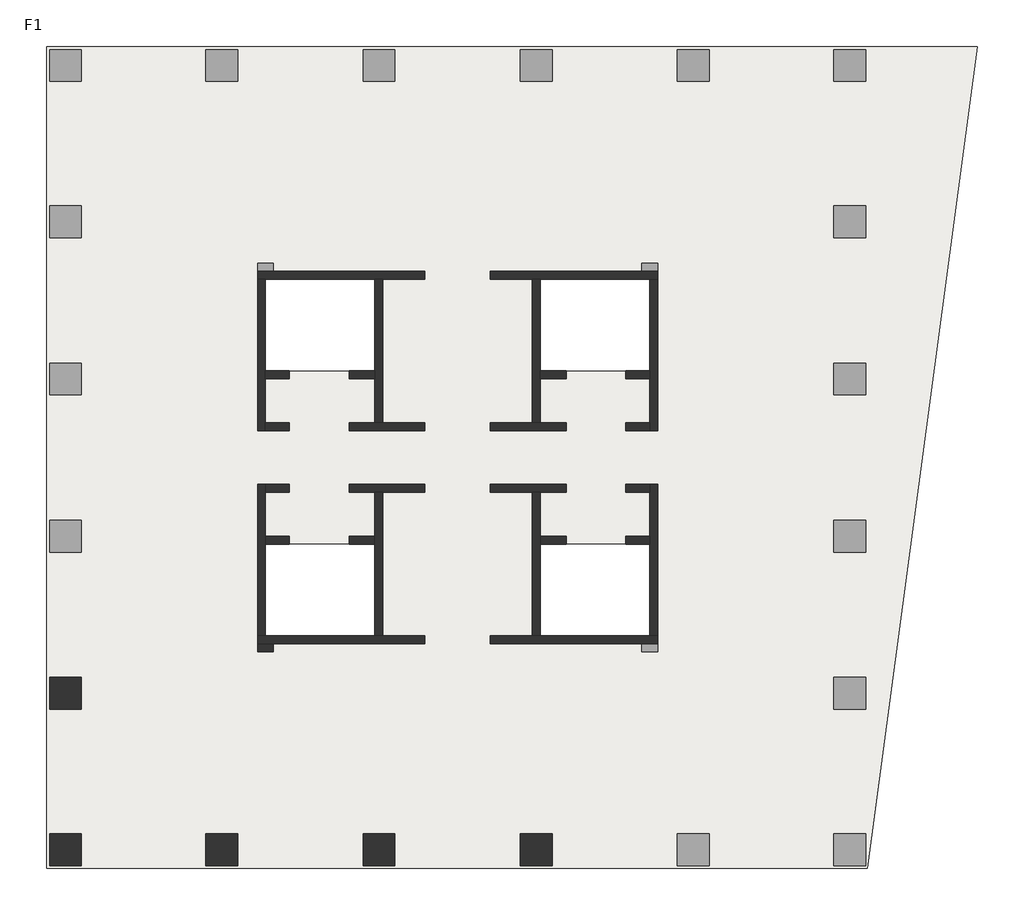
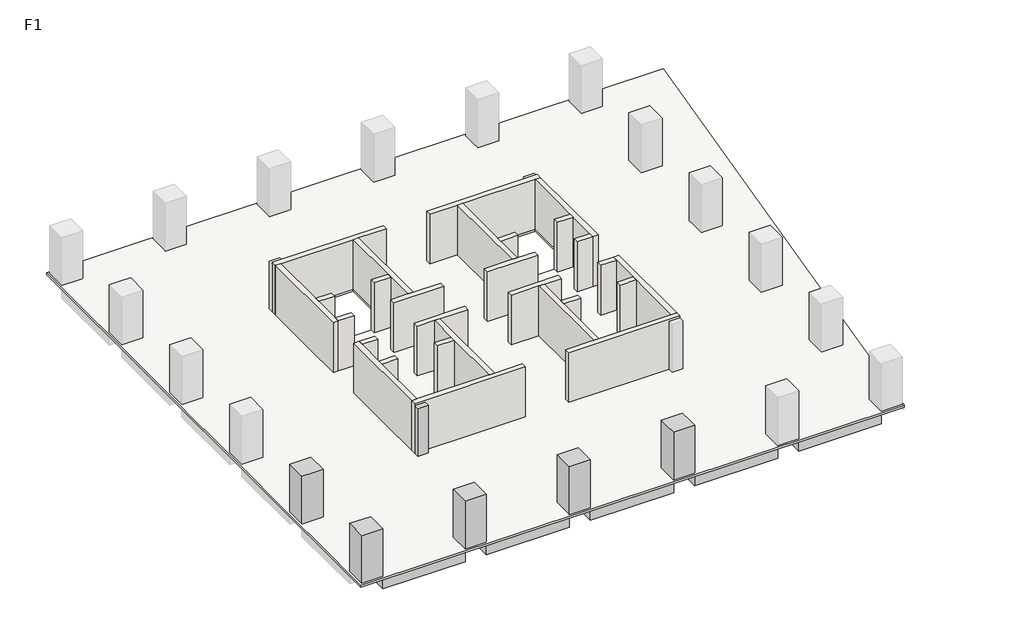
# One storey, part 1 of 2: 28 walls, 6 columns, 5 beams, 1 slab.
"""IFC4 building model written with IfcOpenShell, lengths in millimetres."""

from ifc_helpers import new_model, si_unit, frame, origin, place, context, project, spatial, polyline, outline, extrude, faceted_brep, element, save

model = new_model("IFC4")

# Units and contexts
model_context = context("Model", 3, world=origin())
ifc_project = project(units=[si_unit("LENGTHUNIT", "METRE", prefix="MILLI")], contexts=[model_context])

# Site, building, storey
site = spatial("IfcSite", under=ifc_project)
building = spatial("IfcBuilding", under=site)
storey = spatial("IfcBuildingStorey", under=building, Name="F1", Elevation=4000.0)

# Beams
placement = place(None, origin())
element("IfcBeam", 1, ObjectType="混凝土 - 矩形梁 : KL(5)-800x1000", at=placement, inside=storey, context=model_context, shape_type="SweptSolid", body=[
    extrude(outline(polyline([(-12472.6742169, -13948.9501342), (-12472.6742169, -13148.9501342), (-6222.6742169, -13148.9501342), (-6222.6742169, -13948.9501342), (-12472.6742169, -13948.9501342)])), frame((0.0, 0.0, 3000.0), z_axis=(0.0, 0.0, 1.0), x_axis=(1.0, 0.0, 0.0)), (0.0, 0.0, 1.0), 840.0),
    extrude(outline(polyline([(25327.3257831, -13148.9501342), (25327.3257831, -13948.9501342), (19077.3257831, -13948.9501342), (19077.3257831, -13148.9501342), (25327.3257831, -13148.9501342)])), frame((0.0, 0.0, 3000.0), z_axis=(0.0, 0.0, 1.0), x_axis=(1.0, 0.0, 0.0)), (0.0, 0.0, 1.0), 840.0),
    extrude(outline(polyline([(-4622.6742169, -13948.9501342), (-4622.6742169, -13148.9501342), (1677.3257831, -13148.9501342), (1677.3257831, -13948.9501342), (-4622.6742169, -13948.9501342)])), frame((0.0, 0.0, 3000.0), z_axis=(0.0, 0.0, 1.0), x_axis=(1.0, 0.0, 0.0)), (0.0, 0.0, 1.0), 840.0),
    extrude(outline(polyline([(3277.3257831, -13948.9501342), (3277.3257831, -13148.9501342), (9577.3257831, -13148.9501342), (9577.3257831, -13948.9501342), (3277.3257831, -13948.9501342)])), frame((0.0, 0.0, 3000.0), z_axis=(0.0, 0.0, 1.0), x_axis=(1.0, 0.0, 0.0)), (0.0, 0.0, 1.0), 840.0),
    extrude(outline(polyline([(11177.3257831, -13948.9501342), (11177.3257831, -13148.9501342), (17477.3257831, -13148.9501342), (17477.3257831, -13948.9501342), (11177.3257831, -13948.9501342)])), frame((0.0, 0.0, 3000.0), z_axis=(0.0, 0.0, 1.0), x_axis=(1.0, 0.0, 0.0)), (0.0, 0.0, 1.0), 840.0),
])
element("IfcBeam", 2, ObjectType="混凝土 - 矩形梁 : L1-800x500", at=placement, inside=storey, context=model_context, shape_type="Brep", body=[
    faceted_brep([(-12472.6742169, -5512.1353397, 3500.0), (-3746.9473979, -3341.556529, 3500.0), (-3173.6696907, -3198.9501342, 3500.0), (-3173.6696907, -3198.9501342, 3840.0), (-3746.9473979, -3341.556529, 3840.0), (-12472.6742169, -5512.1353397, 3840.0), (-3622.6742169, -3198.9501342, 3500.0), (-12472.6742169, -4687.7549784, 3500.0), (-3622.6742169, -2486.2624411, 3500.0), (-3622.6742169, -2798.9501342, 3500.0), (-12472.6742169, -4687.7549784, 3840.0), (-3622.6742169, -2486.2624411, 3840.0), (-3622.6742169, -3198.9501342, 3840.0)], [[[0, 1, 2, 3, 4, 5]], [[6, 2, 1, 0, 7, 8, 9]], [[8, 7, 10, 11]], [[2, 6, 12, 3]], [[9, 8, 11, 12, 6]], [[7, 0, 5, 10]], [[5, 4, 3, 12, 11, 10]]]),
])
element("IfcBeam", 3, ObjectType="混凝土 - 矩形梁 : L1-800x500", at=placement, inside=storey, context=model_context, shape_type="SweptSolid", body=[
    extrude(outline(polyline([(-3746.9473979, -3341.556529), (-3173.6696907, -3198.9501342), (-2898.7618154, -3198.9501342), (-4843.6893517, -12348.9501342), (-5661.5624638, -12348.9501342), (-3746.9473979, -3341.556529)])), frame((0.0, 0.0, 3500.0), z_axis=(0.0, 0.0, 1.0), x_axis=(1.0, 0.0, 0.0)), (0.0, 0.0, 1.0), 340.0),
])
element("IfcBeam", 4, ObjectType="混凝土 - 矩形梁 : L1-800x500", at=placement, inside=storey, context=model_context, shape_type="SweptSolid", body=[
    extrude(outline(polyline([(2877.3257831, -12348.9501342), (2077.3257831, -12348.9501342), (2077.3257831, -2798.9501342), (2877.3257831, -2798.9501342), (2877.3257831, -12348.9501342)])), frame((0.0, 0.0, 3500.0), z_axis=(0.0, 0.0, 1.0), x_axis=(1.0, 0.0, 0.0)), (0.0, 0.0, 1.0), 340.0),
])
element("IfcBeam", 5, ObjectType="混凝土 - 矩形梁 : L1-800x500", at=placement, inside=storey, context=model_context, shape_type="SweptSolid", body=[
    extrude(outline(polyline([(10777.3257831, -12348.9501342), (9977.3257831, -12348.9501342), (9977.3257831, -2798.9501342), (10777.3257831, -2798.9501342), (10777.3257831, -12348.9501342)])), frame((0.0, 0.0, 3500.0), z_axis=(0.0, 0.0, 1.0), x_axis=(1.0, 0.0, 0.0)), (0.0, 0.0, 1.0), 340.0),
])

# Columns
element("IfcColumn", 6, ObjectType="混凝土 - 矩形 - 柱 : Z1-1600x1600", at=placement, inside=storey, context=model_context, shape_type="Brep", body=[
    faceted_brep([(-12472.6742169, -4498.9501342, 4000.0), (-12472.6742169, -6098.9501342, 4000.0), (-14072.6742169, -6098.9501342, 4000.0), (-14072.6742169, -4498.9501342, 4000.0), (-12472.6742169, -4498.9501342, 7840.0), (-12472.6742169, -6098.9501342, 7840.0), (-13272.6742169, -6098.9501342, 7840.0), (-14072.6742169, -6098.9501342, 7840.0), (-14072.6742169, -6098.9501342, 7000.0), (-14072.6742169, -4498.9501342, 7840.0), (-14072.6742169, -4498.9501342, 7000.0), (-13272.6742169, -4498.9501342, 7840.0)], [[[0, 1, 2, 3]], [[1, 0, 4, 5]], [[2, 1, 5, 6, 7, 8]], [[3, 2, 8, 7, 9, 10]], [[0, 3, 10, 9, 11, 4]], [[5, 4, 11, 9, 7, 6]]]),
])
element("IfcColumn", 7, ObjectType="混凝土 - 矩形 - 柱 : Z1-1600x1600", at=placement, inside=storey, context=model_context, shape_type="SweptSolid", body=[
    extrude(outline(polyline([(-12472.6742169, -12348.9501342), (-12472.6742169, -13948.9501342), (-14072.6742169, -13948.9501342), (-14072.6742169, -12348.9501342), (-12472.6742169, -12348.9501342)])), frame((0.0, 0.0, 4000.0), z_axis=(0.0, 0.0, 1.0), x_axis=(1.0, 0.0, 0.0)), (0.0, 0.0, 1.0), 3840.0),
])
element("IfcColumn", 8, ObjectType="混凝土 - 矩形 - 柱 : Z1-1600x1600", at=placement, inside=storey, context=model_context, shape_type="Brep", body=[
    faceted_brep([(-4622.6742169, -12348.9501342, 4000.0), (-4622.6742169, -13948.9501342, 4000.0), (-6222.6742169, -13948.9501342, 4000.0), (-6222.6742169, -12348.9501342, 4000.0), (-4622.6742169, -12348.9501342, 7840.0), (-4622.6742169, -13148.9501342, 7840.0), (-4622.6742169, -13948.9501342, 7840.0), (-4622.6742169, -13948.9501342, 7000.0), (-6222.6742169, -13948.9501342, 7840.0), (-6222.6742169, -13948.9501342, 7000.0), (-6222.6742169, -13148.9501342, 7840.0), (-6222.6742169, -12348.9501342, 7840.0)], [[[0, 1, 2, 3]], [[1, 0, 4, 5, 6, 7]], [[2, 1, 7, 6, 8, 9]], [[3, 2, 9, 8, 10, 11]], [[0, 3, 11, 4]], [[6, 5, 4, 11, 10, 8]]]),
])
element("IfcColumn", 9, ObjectType="混凝土 - 矩形 - 柱 : Z1-1600x1600", at=placement, inside=storey, context=model_context, shape_type="Brep", body=[
    faceted_brep([(3277.3257831, -12348.9501342, 4000.0), (3277.3257831, -13948.9501342, 4000.0), (1677.3257831, -13948.9501342, 4000.0), (1677.3257831, -12348.9501342, 4000.0), (3277.3257831, -12348.9501342, 7840.0), (3277.3257831, -13148.9501342, 7840.0), (3277.3257831, -13948.9501342, 7840.0), (3277.3257831, -13948.9501342, 7000.0), (1677.3257831, -13948.9501342, 7840.0), (1677.3257831, -13948.9501342, 7000.0), (1677.3257831, -13148.9501342, 7840.0), (1677.3257831, -12348.9501342, 7840.0)], [[[0, 1, 2, 3]], [[1, 0, 4, 5, 6, 7]], [[2, 1, 7, 6, 8, 9]], [[3, 2, 9, 8, 10, 11]], [[0, 3, 11, 4]], [[6, 5, 4, 11, 10, 8]]]),
])
element("IfcColumn", 10, ObjectType="混凝土 - 矩形 - 柱 : Z1-1600x1600", at=placement, inside=storey, context=model_context, shape_type="Brep", body=[
    faceted_brep([(11177.3257831, -12348.9501342, 4000.0), (11177.3257831, -13948.9501342, 4000.0), (9577.3257831, -13948.9501342, 4000.0), (9577.3257831, -12348.9501342, 4000.0), (11177.3257831, -12348.9501342, 7840.0), (11177.3257831, -13148.9501342, 7840.0), (11177.3257831, -13948.9501342, 7840.0), (11177.3257831, -13948.9501342, 7000.0), (9577.3257831, -13948.9501342, 7840.0), (9577.3257831, -13948.9501342, 7000.0), (9577.3257831, -13148.9501342, 7840.0), (9577.3257831, -12348.9501342, 7840.0)], [[[0, 1, 2, 3]], [[1, 0, 4, 5, 6, 7]], [[2, 1, 7, 6, 8, 9]], [[3, 2, 9, 8, 10, 11]], [[0, 3, 11, 4]], [[6, 5, 4, 11, 10, 8]]]),
])
element("IfcColumn", 11, ObjectType="混凝土 - 矩形 - 柱 : Z2-800x800", at=placement, inside=storey, context=model_context, shape_type="SweptSolid", body=[
    extrude(outline(polyline([(-2822.6742169, -3198.9501342), (-3622.6742169, -3198.9501342), (-3622.6742169, -2798.9501342), (-2822.6742169, -2798.9501342), (-2822.6742169, -3198.9501342)])), frame((0.0, 0.0, 4000.0), z_axis=(0.0, 0.0, 1.0), x_axis=(1.0, 0.0, 0.0)), (0.0, 0.0, 1.0), 3840.0),
])

# Slab
element("IfcSlab", 12, ObjectType="LB-160", at=placement, inside=storey, context=model_context, shape_type="Brep", body=[
    faceted_brep([(32549.4477343, 27201.0498658, 3840.0), (32422.0087099, 26251.0498658, 3840.0), (27029.3257831, -13948.9501342, 3840.0), (27011.0393465, -14085.2672073, 3840.0), (-14222.6742169, -14085.2672073, 3840.0), (-14222.6742169, 27201.0498658, 3840.0), (2277.3257831, 15501.0498658, 3840.0), (-3222.6742169, 15501.0498658, 3840.0), (-3222.6742169, 10901.0498658, 3840.0), (2277.3257831, 10901.0498658, 3840.0), (2277.3257831, 2201.0498658, 3840.0), (-3222.6742169, 2201.0498658, 3840.0), (-3222.6742169, -2398.9501342, 3840.0), (2277.3257831, -2398.9501342, 3840.0), (16077.3257831, 2201.0498658, 3840.0), (10577.3257831, 2201.0498658, 3840.0), (10577.3257831, -2398.9501342, 3840.0), (16077.3257831, -2398.9501342, 3840.0), (16077.3257831, 15501.0498658, 3840.0), (10577.3257831, 15501.0498658, 3840.0), (10577.3257831, 10901.0498658, 3840.0), (16077.3257831, 10901.0498658, 3840.0), (32549.4477343, 27201.0498658, 4000.0), (-14222.6742169, 27201.0498658, 4000.0), (-14222.6742169, -14085.2672073, 4000.0), (27011.0393465, -14085.2672073, 4000.0), (2277.3257831, 15501.0498658, 4000.0), (2277.3257831, 10901.0498658, 4000.0), (-3222.6742169, 10901.0498658, 4000.0), (-3222.6742169, 15501.0498658, 4000.0), (2277.3257831, 2201.0498658, 4000.0), (2277.3257831, -2398.9501342, 4000.0), (-3222.6742169, -2398.9501342, 4000.0), (-3222.6742169, 2201.0498658, 4000.0), (16077.3257831, 2201.0498658, 4000.0), (16077.3257831, -2398.9501342, 4000.0), (10577.3257831, -2398.9501342, 4000.0), (10577.3257831, 2201.0498658, 4000.0), (16077.3257831, 15501.0498658, 4000.0), (16077.3257831, 10901.0498658, 4000.0), (10577.3257831, 10901.0498658, 4000.0), (10577.3257831, 15501.0498658, 4000.0)], [[[0, 1, 2, 3, 4, 5], [6, 7, 8, 9], [10, 11, 12, 13], [14, 15, 16, 17], [18, 19, 20, 21]], [[22, 23, 24, 25], [26, 27, 28, 29], [30, 31, 32, 33], [34, 35, 36, 37], [38, 39, 40, 41]], [[3, 2, 1, 0, 22, 25]], [[4, 3, 25, 24]], [[5, 4, 24, 23]], [[0, 5, 23, 22]], [[7, 6, 26, 29]], [[8, 7, 29, 28]], [[9, 8, 28, 27]], [[6, 9, 27, 26]], [[11, 10, 30, 33]], [[12, 11, 33, 32]], [[13, 12, 32, 31]], [[10, 13, 31, 30]], [[15, 14, 34, 37]], [[16, 15, 37, 36]], [[17, 16, 36, 35]], [[14, 17, 35, 34]], [[19, 18, 38, 41]], [[20, 19, 41, 40]], [[21, 20, 40, 39]], [[18, 21, 39, 38]]]),
])

# Walls
element("IfcWall", 13, ObjectType="剪力墙-400", at=placement, inside=storey, context=model_context, shape_type="Brep", body=[
    faceted_brep([(-3622.6742169, 15501.0498658, 4000.0), (-3222.6742169, 15501.0498658, 4000.0), (2277.3257831, 15501.0498658, 4000.0), (2677.3257831, 15501.0498658, 4000.0), (4777.3257831, 15501.0498658, 4000.0), (4777.3257831, 15501.0498658, 8000.0), (2677.3257831, 15501.0498658, 8000.0), (2277.3257831, 15501.0498658, 8000.0), (-3222.6742169, 15501.0498658, 8000.0), (-3622.6742169, 15501.0498658, 8000.0), (-3622.6742169, 15901.0498658, 4000.0), (-3622.6742169, 15901.0498658, 7840.0), (-3622.6742169, 15901.0498658, 8000.0), (4777.3257831, 15901.0498658, 8000.0), (4777.3257831, 15901.0498658, 4000.0), (-2822.6742169, 15901.0498658, 4000.0)], [[[0, 1, 2, 3, 4, 5, 6, 7, 8, 9]], [[10, 11, 12, 13, 14, 15]], [[4, 3, 2, 1, 0, 10, 15, 14]], [[5, 4, 14, 13]], [[9, 8, 7, 6, 5, 13, 12]], [[0, 9, 12, 11, 10]]]),
])
element("IfcWall", 14, ObjectType="剪力墙-400", at=placement, inside=storey, context=model_context, shape_type="Brep", body=[
    faceted_brep([(2277.3257831, 15501.0498658, 4000.0), (2277.3257831, 10901.0498658, 4000.0), (2277.3257831, 10501.0498658, 4000.0), (2277.3257831, 8301.0498658, 4000.0), (2277.3257831, 8301.0498658, 8000.0), (2277.3257831, 10501.0498658, 8000.0), (2277.3257831, 10901.0498658, 8000.0), (2277.3257831, 15501.0498658, 8000.0), (2677.3257831, 15501.0498658, 4000.0), (2677.3257831, 15501.0498658, 8000.0), (2677.3257831, 8301.0498658, 8000.0), (2677.3257831, 8301.0498658, 4000.0)], [[[0, 1, 2, 3, 4, 5, 6, 7]], [[8, 9, 10, 11]], [[3, 2, 1, 0, 8, 11]], [[7, 6, 5, 4, 10, 9]], [[0, 7, 9, 8]], [[4, 3, 11, 10]]]),
])
element("IfcWall", 15, ObjectType="剪力墙-400", at=placement, inside=storey, context=model_context, shape_type="Brep", body=[
    faceted_brep([(-3622.6742169, 15501.0498658, 4000.0), (-3622.6742169, 7901.0498658, 4000.0), (-3622.6742169, 7901.0498658, 8000.0), (-3622.6742169, 15501.0498658, 8000.0), (-3222.6742169, 15501.0498658, 4000.0), (-3222.6742169, 15501.0498658, 8000.0), (-3222.6742169, 10901.0498658, 8000.0), (-3222.6742169, 10501.0498658, 8000.0), (-3222.6742169, 8301.0498658, 8000.0), (-3222.6742169, 7901.0498658, 8000.0), (-3222.6742169, 7901.0498658, 4000.0), (-3222.6742169, 8301.0498658, 4000.0), (-3222.6742169, 10501.0498658, 4000.0), (-3222.6742169, 10901.0498658, 4000.0)], [[[0, 1, 2, 3]], [[4, 5, 6, 7, 8, 9, 10, 11, 12, 13]], [[1, 0, 4, 13, 12, 11, 10]], [[3, 2, 9, 8, 7, 6, 5]], [[0, 3, 5, 4]], [[2, 1, 10, 9]]]),
])
element("IfcWall", 16, ObjectType="剪力墙-400", at=placement, inside=storey, context=model_context, shape_type="SweptSolid", body=[
    extrude(outline(polyline([(-2022.6742169, 7901.0498658), (-3222.6742169, 7901.0498658), (-3222.6742169, 8301.0498658), (-2022.6742169, 8301.0498658), (-2022.6742169, 7901.0498658)])), frame((0.0, 0.0, 4000.0), z_axis=(0.0, 0.0, 1.0), x_axis=(1.0, 0.0, 0.0)), (0.0, 0.0, 1.0), 4000.0),
])
element("IfcWall", 17, ObjectType="剪力墙-400", at=placement, inside=storey, context=model_context, shape_type="Brep", body=[
    faceted_brep([(977.3257831, 7901.0498658, 4000.0), (4777.3257831, 7901.0498658, 4000.0), (4777.3257831, 7901.0498658, 8000.0), (977.3257831, 7901.0498658, 8000.0), (977.3257831, 8301.0498658, 4000.0), (977.3257831, 8301.0498658, 8000.0), (2277.3257831, 8301.0498658, 8000.0), (2677.3257831, 8301.0498658, 8000.0), (4777.3257831, 8301.0498658, 8000.0), (4777.3257831, 8301.0498658, 4000.0), (2677.3257831, 8301.0498658, 4000.0), (2277.3257831, 8301.0498658, 4000.0)], [[[0, 1, 2, 3]], [[4, 5, 6, 7, 8, 9, 10, 11]], [[1, 0, 4, 11, 10, 9]], [[2, 1, 9, 8]], [[3, 2, 8, 7, 6, 5]], [[0, 3, 5, 4]]]),
])
element("IfcWall", 18, ObjectType="剪力墙-400", at=placement, inside=storey, context=model_context, shape_type="SweptSolid", body=[
    extrude(outline(polyline([(-2022.6742169, 10501.0498658), (-3222.6742169, 10501.0498658), (-3222.6742169, 10901.0498658), (-2022.6742169, 10901.0498658), (-2022.6742169, 10501.0498658)])), frame((0.0, 0.0, 4000.0), z_axis=(0.0, 0.0, 1.0), x_axis=(1.0, 0.0, 0.0)), (0.0, 0.0, 1.0), 4000.0),
])
element("IfcWall", 19, ObjectType="剪力墙-400", at=placement, inside=storey, context=model_context, shape_type="SweptSolid", body=[
    extrude(outline(polyline([(2277.3257831, 10501.0498658), (977.3257831, 10501.0498658), (977.3257831, 10901.0498658), (2277.3257831, 10901.0498658), (2277.3257831, 10501.0498658)])), frame((0.0, 0.0, 4000.0), z_axis=(0.0, 0.0, 1.0), x_axis=(1.0, 0.0, 0.0)), (0.0, 0.0, 1.0), 4000.0),
])
element("IfcWall", 20, ObjectType="剪力墙-400", at=placement, inside=storey, context=model_context, shape_type="Brep", body=[
    faceted_brep([(16477.3257831, 15901.0498658, 4000.0), (15677.3257831, 15901.0498658, 4000.0), (8077.3257831, 15901.0498658, 4000.0), (8077.3257831, 15901.0498658, 8000.0), (16477.3257831, 15901.0498658, 8000.0), (16477.3257831, 15901.0498658, 7840.0), (16477.3257831, 15501.0498658, 4000.0), (16477.3257831, 15501.0498658, 8000.0), (16077.3257831, 15501.0498658, 8000.0), (10577.3257831, 15501.0498658, 8000.0), (10177.3257831, 15501.0498658, 8000.0), (8077.3257831, 15501.0498658, 8000.0), (8077.3257831, 15501.0498658, 4000.0), (10177.3257831, 15501.0498658, 4000.0), (10577.3257831, 15501.0498658, 4000.0), (16077.3257831, 15501.0498658, 4000.0)], [[[0, 1, 2, 3, 4, 5]], [[6, 7, 8, 9, 10, 11, 12, 13, 14, 15]], [[2, 1, 0, 6, 15, 14, 13, 12]], [[3, 2, 12, 11]], [[4, 3, 11, 10, 9, 8, 7]], [[0, 5, 4, 7, 6]]]),
])
element("IfcWall", 21, ObjectType="剪力墙-400", at=placement, inside=storey, context=model_context, shape_type="Brep", body=[
    faceted_brep([(10177.3257831, 15501.0498658, 4000.0), (10177.3257831, 8301.0498658, 4000.0), (10177.3257831, 8301.0498658, 8000.0), (10177.3257831, 15501.0498658, 8000.0), (10577.3257831, 15501.0498658, 4000.0), (10577.3257831, 15501.0498658, 8000.0), (10577.3257831, 10901.0498658, 8000.0), (10577.3257831, 10501.0498658, 8000.0), (10577.3257831, 8301.0498658, 8000.0), (10577.3257831, 8301.0498658, 4000.0), (10577.3257831, 10501.0498658, 4000.0), (10577.3257831, 10901.0498658, 4000.0)], [[[0, 1, 2, 3]], [[4, 5, 6, 7, 8, 9, 10, 11]], [[1, 0, 4, 11, 10, 9]], [[3, 2, 8, 7, 6, 5]], [[0, 3, 5, 4]], [[2, 1, 9, 8]]]),
])
element("IfcWall", 22, ObjectType="剪力墙-400", at=placement, inside=storey, context=model_context, shape_type="Brep", body=[
    faceted_brep([(16077.3257831, 15501.0498658, 4000.0), (16077.3257831, 10901.0498658, 4000.0), (16077.3257831, 10501.0498658, 4000.0), (16077.3257831, 8301.0498658, 4000.0), (16077.3257831, 7901.0498658, 4000.0), (16077.3257831, 7901.0498658, 8000.0), (16077.3257831, 8301.0498658, 8000.0), (16077.3257831, 10501.0498658, 8000.0), (16077.3257831, 10901.0498658, 8000.0), (16077.3257831, 15501.0498658, 8000.0), (16477.3257831, 15501.0498658, 4000.0), (16477.3257831, 15501.0498658, 8000.0), (16477.3257831, 7901.0498658, 8000.0), (16477.3257831, 7901.0498658, 4000.0)], [[[0, 1, 2, 3, 4, 5, 6, 7, 8, 9]], [[10, 11, 12, 13]], [[4, 3, 2, 1, 0, 10, 13]], [[9, 8, 7, 6, 5, 12, 11]], [[0, 9, 11, 10]], [[5, 4, 13, 12]]]),
])
element("IfcWall", 23, ObjectType="剪力墙-400", at=placement, inside=storey, context=model_context, shape_type="SweptSolid", body=[
    extrude(outline(polyline([(14877.3257831, 8301.0498658), (16077.3257831, 8301.0498658), (16077.3257831, 7901.0498658), (14877.3257831, 7901.0498658), (14877.3257831, 8301.0498658)])), frame((0.0, 0.0, 4000.0), z_axis=(0.0, 0.0, 1.0), x_axis=(1.0, 0.0, 0.0)), (0.0, 0.0, 1.0), 4000.0),
])
element("IfcWall", 24, ObjectType="剪力墙-400", at=placement, inside=storey, context=model_context, shape_type="Brep", body=[
    faceted_brep([(11877.3257831, 8301.0498658, 4000.0), (10577.3257831, 8301.0498658, 4000.0), (10177.3257831, 8301.0498658, 4000.0), (8077.3257831, 8301.0498658, 4000.0), (8077.3257831, 8301.0498658, 8000.0), (10177.3257831, 8301.0498658, 8000.0), (10577.3257831, 8301.0498658, 8000.0), (11877.3257831, 8301.0498658, 8000.0), (11877.3257831, 7901.0498658, 4000.0), (11877.3257831, 7901.0498658, 8000.0), (8077.3257831, 7901.0498658, 8000.0), (8077.3257831, 7901.0498658, 4000.0)], [[[0, 1, 2, 3, 4, 5, 6, 7]], [[8, 9, 10, 11]], [[3, 2, 1, 0, 8, 11]], [[4, 3, 11, 10]], [[7, 6, 5, 4, 10, 9]], [[0, 7, 9, 8]]]),
])
element("IfcWall", 25, ObjectType="剪力墙-400", at=placement, inside=storey, context=model_context, shape_type="SweptSolid", body=[
    extrude(outline(polyline([(14877.3257831, 10901.0498658), (16077.3257831, 10901.0498658), (16077.3257831, 10501.0498658), (14877.3257831, 10501.0498658), (14877.3257831, 10901.0498658)])), frame((0.0, 0.0, 4000.0), z_axis=(0.0, 0.0, 1.0), x_axis=(1.0, 0.0, 0.0)), (0.0, 0.0, 1.0), 4000.0),
])
element("IfcWall", 26, ObjectType="剪力墙-400", at=placement, inside=storey, context=model_context, shape_type="SweptSolid", body=[
    extrude(outline(polyline([(10577.3257831, 10901.0498658), (11877.3257831, 10901.0498658), (11877.3257831, 10501.0498658), (10577.3257831, 10501.0498658), (10577.3257831, 10901.0498658)])), frame((0.0, 0.0, 4000.0), z_axis=(0.0, 0.0, 1.0), x_axis=(1.0, 0.0, 0.0)), (0.0, 0.0, 1.0), 4000.0),
])
element("IfcWall", 27, ObjectType="剪力墙-400", at=placement, inside=storey, context=model_context, shape_type="Brep", body=[
    faceted_brep([(-3622.6742169, -2798.9501342, 4000.0), (-2822.6742169, -2798.9501342, 4000.0), (4777.3257831, -2798.9501342, 4000.0), (4777.3257831, -2798.9501342, 8000.0), (-3622.6742169, -2798.9501342, 8000.0), (-3622.6742169, -2798.9501342, 7840.0), (-3622.6742169, -2398.9501342, 4000.0), (-3622.6742169, -2398.9501342, 8000.0), (-3222.6742169, -2398.9501342, 8000.0), (2277.3257831, -2398.9501342, 8000.0), (2677.3257831, -2398.9501342, 8000.0), (4777.3257831, -2398.9501342, 8000.0), (4777.3257831, -2398.9501342, 4000.0), (2677.3257831, -2398.9501342, 4000.0), (2277.3257831, -2398.9501342, 4000.0), (-3222.6742169, -2398.9501342, 4000.0)], [[[0, 1, 2, 3, 4, 5]], [[6, 7, 8, 9, 10, 11, 12, 13, 14, 15]], [[2, 1, 0, 6, 15, 14, 13, 12]], [[3, 2, 12, 11]], [[4, 3, 11, 10, 9, 8, 7]], [[0, 5, 4, 7, 6]]]),
])
element("IfcWall", 28, ObjectType="剪力墙-400", at=placement, inside=storey, context=model_context, shape_type="Brep", body=[
    faceted_brep([(2677.3257831, -2398.9501342, 4000.0), (2677.3257831, 4801.0498658, 4000.0), (2677.3257831, 4801.0498658, 8000.0), (2677.3257831, -2398.9501342, 8000.0), (2277.3257831, -2398.9501342, 4000.0), (2277.3257831, -2398.9501342, 8000.0), (2277.3257831, 2201.0498658, 8000.0), (2277.3257831, 2601.0498658, 8000.0), (2277.3257831, 4801.0498658, 8000.0), (2277.3257831, 4801.0498658, 4000.0), (2277.3257831, 2601.0498658, 4000.0), (2277.3257831, 2201.0498658, 4000.0)], [[[0, 1, 2, 3]], [[4, 5, 6, 7, 8, 9, 10, 11]], [[1, 0, 4, 11, 10, 9]], [[3, 2, 8, 7, 6, 5]], [[0, 3, 5, 4]], [[2, 1, 9, 8]]]),
])
element("IfcWall", 29, ObjectType="剪力墙-400", at=placement, inside=storey, context=model_context, shape_type="Brep", body=[
    faceted_brep([(-3222.6742169, -2398.9501342, 4000.0), (-3222.6742169, 2201.0498658, 4000.0), (-3222.6742169, 2601.0498658, 4000.0), (-3222.6742169, 4801.0498658, 4000.0), (-3222.6742169, 5201.0498658, 4000.0), (-3222.6742169, 5201.0498658, 8000.0), (-3222.6742169, 4801.0498658, 8000.0), (-3222.6742169, 2601.0498658, 8000.0), (-3222.6742169, 2201.0498658, 8000.0), (-3222.6742169, -2398.9501342, 8000.0), (-3622.6742169, -2398.9501342, 4000.0), (-3622.6742169, -2398.9501342, 8000.0), (-3622.6742169, 5201.0498658, 8000.0), (-3622.6742169, 5201.0498658, 4000.0)], [[[0, 1, 2, 3, 4, 5, 6, 7, 8, 9]], [[10, 11, 12, 13]], [[4, 3, 2, 1, 0, 10, 13]], [[9, 8, 7, 6, 5, 12, 11]], [[0, 9, 11, 10]], [[5, 4, 13, 12]]]),
])
element("IfcWall", 30, ObjectType="剪力墙-400", at=placement, inside=storey, context=model_context, shape_type="SweptSolid", body=[
    extrude(outline(polyline([(-2022.6742169, 4801.0498658), (-3222.6742169, 4801.0498658), (-3222.6742169, 5201.0498658), (-2022.6742169, 5201.0498658), (-2022.6742169, 4801.0498658)])), frame((0.0, 0.0, 4000.0), z_axis=(0.0, 0.0, 1.0), x_axis=(1.0, 0.0, 0.0)), (0.0, 0.0, 1.0), 4000.0),
])
element("IfcWall", 31, ObjectType="剪力墙-400", at=placement, inside=storey, context=model_context, shape_type="Brep", body=[
    faceted_brep([(977.3257831, 4801.0498658, 4000.0), (2277.3257831, 4801.0498658, 4000.0), (2677.3257831, 4801.0498658, 4000.0), (4777.3257831, 4801.0498658, 4000.0), (4777.3257831, 4801.0498658, 8000.0), (2677.3257831, 4801.0498658, 8000.0), (2277.3257831, 4801.0498658, 8000.0), (977.3257831, 4801.0498658, 8000.0), (977.3257831, 5201.0498658, 4000.0), (977.3257831, 5201.0498658, 8000.0), (4777.3257831, 5201.0498658, 8000.0), (4777.3257831, 5201.0498658, 4000.0)], [[[0, 1, 2, 3, 4, 5, 6, 7]], [[8, 9, 10, 11]], [[3, 2, 1, 0, 8, 11]], [[4, 3, 11, 10]], [[7, 6, 5, 4, 10, 9]], [[0, 7, 9, 8]]]),
])
element("IfcWall", 32, ObjectType="剪力墙-400", at=placement, inside=storey, context=model_context, shape_type="SweptSolid", body=[
    extrude(outline(polyline([(-2022.6742169, 2201.0498658), (-3222.6742169, 2201.0498658), (-3222.6742169, 2601.0498658), (-2022.6742169, 2601.0498658), (-2022.6742169, 2201.0498658)])), frame((0.0, 0.0, 4000.0), z_axis=(0.0, 0.0, 1.0), x_axis=(1.0, 0.0, 0.0)), (0.0, 0.0, 1.0), 4000.0),
])
element("IfcWall", 33, ObjectType="剪力墙-400", at=placement, inside=storey, context=model_context, shape_type="SweptSolid", body=[
    extrude(outline(polyline([(2277.3257831, 2201.0498658), (977.3257831, 2201.0498658), (977.3257831, 2601.0498658), (2277.3257831, 2601.0498658), (2277.3257831, 2201.0498658)])), frame((0.0, 0.0, 4000.0), z_axis=(0.0, 0.0, 1.0), x_axis=(1.0, 0.0, 0.0)), (0.0, 0.0, 1.0), 4000.0),
])
element("IfcWall", 34, ObjectType="剪力墙-400", at=placement, inside=storey, context=model_context, shape_type="Brep", body=[
    faceted_brep([(16477.3257831, -2398.9501342, 4000.0), (16077.3257831, -2398.9501342, 4000.0), (10577.3257831, -2398.9501342, 4000.0), (10177.3257831, -2398.9501342, 4000.0), (8077.3257831, -2398.9501342, 4000.0), (8077.3257831, -2398.9501342, 8000.0), (10177.3257831, -2398.9501342, 8000.0), (10577.3257831, -2398.9501342, 8000.0), (16077.3257831, -2398.9501342, 8000.0), (16477.3257831, -2398.9501342, 8000.0), (16477.3257831, -2798.9501342, 4000.0), (16477.3257831, -2798.9501342, 7840.0), (16477.3257831, -2798.9501342, 8000.0), (8077.3257831, -2798.9501342, 8000.0), (8077.3257831, -2798.9501342, 4000.0), (15677.3257831, -2798.9501342, 4000.0)], [[[0, 1, 2, 3, 4, 5, 6, 7, 8, 9]], [[10, 11, 12, 13, 14, 15]], [[4, 3, 2, 1, 0, 10, 15, 14]], [[5, 4, 14, 13]], [[9, 8, 7, 6, 5, 13, 12]], [[0, 9, 12, 11, 10]]]),
])
element("IfcWall", 35, ObjectType="剪力墙-400", at=placement, inside=storey, context=model_context, shape_type="Brep", body=[
    faceted_brep([(10577.3257831, -2398.9501342, 4000.0), (10577.3257831, 2201.0498658, 4000.0), (10577.3257831, 2601.0498658, 4000.0), (10577.3257831, 4801.0498658, 4000.0), (10577.3257831, 4801.0498658, 8000.0), (10577.3257831, 2601.0498658, 8000.0), (10577.3257831, 2201.0498658, 8000.0), (10577.3257831, -2398.9501342, 8000.0), (10177.3257831, -2398.9501342, 4000.0), (10177.3257831, -2398.9501342, 8000.0), (10177.3257831, 4801.0498658, 8000.0), (10177.3257831, 4801.0498658, 4000.0)], [[[0, 1, 2, 3, 4, 5, 6, 7]], [[8, 9, 10, 11]], [[3, 2, 1, 0, 8, 11]], [[7, 6, 5, 4, 10, 9]], [[0, 7, 9, 8]], [[4, 3, 11, 10]]]),
])
element("IfcWall", 36, ObjectType="剪力墙-400", at=placement, inside=storey, context=model_context, shape_type="Brep", body=[
    faceted_brep([(16477.3257831, -2398.9501342, 4000.0), (16477.3257831, 5201.0498658, 4000.0), (16477.3257831, 5201.0498658, 8000.0), (16477.3257831, -2398.9501342, 8000.0), (16077.3257831, -2398.9501342, 4000.0), (16077.3257831, -2398.9501342, 8000.0), (16077.3257831, 2201.0498658, 8000.0), (16077.3257831, 2601.0498658, 8000.0), (16077.3257831, 4801.0498658, 8000.0), (16077.3257831, 5201.0498658, 8000.0), (16077.3257831, 5201.0498658, 4000.0), (16077.3257831, 4801.0498658, 4000.0), (16077.3257831, 2601.0498658, 4000.0), (16077.3257831, 2201.0498658, 4000.0)], [[[0, 1, 2, 3]], [[4, 5, 6, 7, 8, 9, 10, 11, 12, 13]], [[1, 0, 4, 13, 12, 11, 10]], [[3, 2, 9, 8, 7, 6, 5]], [[0, 3, 5, 4]], [[2, 1, 10, 9]]]),
])
element("IfcWall", 37, ObjectType="剪力墙-400", at=placement, inside=storey, context=model_context, shape_type="SweptSolid", body=[
    extrude(outline(polyline([(14877.3257831, 5201.0498658), (16077.3257831, 5201.0498658), (16077.3257831, 4801.0498658), (14877.3257831, 4801.0498658), (14877.3257831, 5201.0498658)])), frame((0.0, 0.0, 4000.0), z_axis=(0.0, 0.0, 1.0), x_axis=(1.0, 0.0, 0.0)), (0.0, 0.0, 1.0), 4000.0),
])
element("IfcWall", 38, ObjectType="剪力墙-400", at=placement, inside=storey, context=model_context, shape_type="Brep", body=[
    faceted_brep([(11877.3257831, 5201.0498658, 4000.0), (8077.3257831, 5201.0498658, 4000.0), (8077.3257831, 5201.0498658, 8000.0), (11877.3257831, 5201.0498658, 8000.0), (11877.3257831, 4801.0498658, 4000.0), (11877.3257831, 4801.0498658, 8000.0), (10577.3257831, 4801.0498658, 8000.0), (10177.3257831, 4801.0498658, 8000.0), (8077.3257831, 4801.0498658, 8000.0), (8077.3257831, 4801.0498658, 4000.0), (10177.3257831, 4801.0498658, 4000.0), (10577.3257831, 4801.0498658, 4000.0)], [[[0, 1, 2, 3]], [[4, 5, 6, 7, 8, 9, 10, 11]], [[1, 0, 4, 11, 10, 9]], [[2, 1, 9, 8]], [[3, 2, 8, 7, 6, 5]], [[0, 3, 5, 4]]]),
])
element("IfcWall", 39, ObjectType="剪力墙-400", at=placement, inside=storey, context=model_context, shape_type="SweptSolid", body=[
    extrude(outline(polyline([(14877.3257831, 2601.0498658), (16077.3257831, 2601.0498658), (16077.3257831, 2201.0498658), (14877.3257831, 2201.0498658), (14877.3257831, 2601.0498658)])), frame((0.0, 0.0, 4000.0), z_axis=(0.0, 0.0, 1.0), x_axis=(1.0, 0.0, 0.0)), (0.0, 0.0, 1.0), 4000.0),
])
element("IfcWall", 40, ObjectType="剪力墙-400", at=placement, inside=storey, context=model_context, shape_type="SweptSolid", body=[
    extrude(outline(polyline([(10577.3257831, 2601.0498658), (11877.3257831, 2601.0498658), (11877.3257831, 2201.0498658), (10577.3257831, 2201.0498658), (10577.3257831, 2601.0498658)])), frame((0.0, 0.0, 4000.0), z_axis=(0.0, 0.0, 1.0), x_axis=(1.0, 0.0, 0.0)), (0.0, 0.0, 1.0), 4000.0),
])

save(model, "model.ifc")
